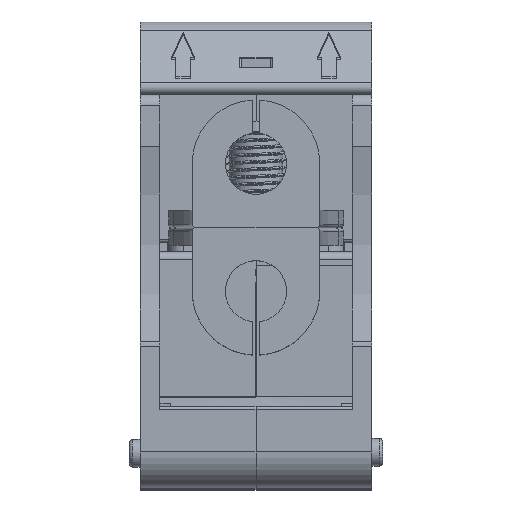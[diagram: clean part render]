
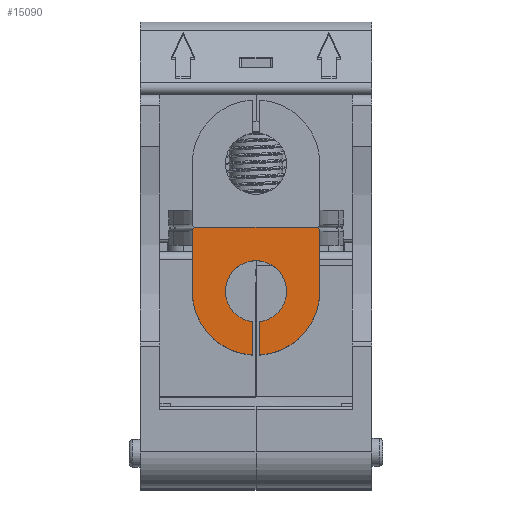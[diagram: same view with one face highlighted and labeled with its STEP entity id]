
A CAD part, top view. The second image highlights one B-rep face of the part: STEP entity #15090.
In plain terms, the highlighted planar face has unit normal (0, 0, 1) as drawn and (-1, 0, 0) by its records, which use the part's own axes.
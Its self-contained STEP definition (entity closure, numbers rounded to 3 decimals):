
#15090=ADVANCED_FACE('',(#30621),#30623,.T.);
#30621=FACE_BOUND('',#30622,.T.);
#30622=EDGE_LOOP('',(#40646,#40647,#40648,#40649,#40650,#40651,#40652,#40653,#40654,
#40655));
#30623=PLANE('',#30624);
#30624=AXIS2_PLACEMENT_3D('',#30625,#30626,#30627);
#30625=CARTESIAN_POINT('',(-39.,8.75,0.));
#30626=DIRECTION('',(-1.,0.,0.));
#30627=DIRECTION('',(0.,1.,0.));
#40646=ORIENTED_EDGE('',*,*,#45960,.T.);
#40647=ORIENTED_EDGE('',*,*,#45961,.F.);
#40648=ORIENTED_EDGE('',*,*,#45962,.T.);
#40649=ORIENTED_EDGE('',*,*,#45963,.T.);
#40650=ORIENTED_EDGE('',*,*,#45964,.T.);
#40651=ORIENTED_EDGE('',*,*,#45927,.T.);
#40652=ORIENTED_EDGE('',*,*,#45959,.T.);
#40653=ORIENTED_EDGE('',*,*,#45952,.T.);
#40654=ORIENTED_EDGE('',*,*,#45965,.T.);
#40655=ORIENTED_EDGE('',*,*,#45966,.T.);
#45927=EDGE_CURVE('',#53470,#53471,#53472,.T.);
#45952=EDGE_CURVE('',#53518,#53516,#53519,.T.);
#45959=EDGE_CURVE('',#53471,#53518,#53528,.T.);
#45960=EDGE_CURVE('',#53529,#53530,#53531,.T.);
#45961=EDGE_CURVE('',#53532,#53530,#53533,.T.);
#45962=EDGE_CURVE('',#53532,#53534,#53535,.T.);
#45963=EDGE_CURVE('',#53534,#53536,#53537,.T.);
#45964=EDGE_CURVE('',#53536,#53470,#53538,.T.);
#45965=EDGE_CURVE('',#53516,#53539,#53540,.T.);
#45966=EDGE_CURVE('',#53539,#53529,#53541,.T.);
#53470=VERTEX_POINT('',#91938);
#53471=VERTEX_POINT('',#91939);
#53472=LINE('',#91940,#91941);
#53516=VERTEX_POINT('',#92045);
#53518=VERTEX_POINT('',#92049);
#53519=LINE('',#92050,#92051);
#53528=CIRCLE('',#92076,0.5);
#53529=VERTEX_POINT('',#92080);
#53530=VERTEX_POINT('',#92081);
#53531=CIRCLE('',#92082,4.2);
#53532=VERTEX_POINT('',#92086);
#53533=LINE('',#92087,#92088);
#53534=VERTEX_POINT('',#92090);
#53535=CIRCLE('',#92091,8.75);
#53536=VERTEX_POINT('',#92095);
#53537=LINE('',#92096,#92097);
#53538=CIRCLE('',#92099,0.5);
#53539=VERTEX_POINT('',#92103);
#53540=CIRCLE('',#92104,8.75);
#53541=LINE('',#92108,#92109);
#91938=CARTESIAN_POINT('',(-39.,8.25,0.));
#91939=CARTESIAN_POINT('',(-39.,-8.25,0.));
#91940=CARTESIAN_POINT('',(-39.,8.25,0.));
#91941=VECTOR('',#91942,1.);
#91942=DIRECTION('',(0.,-1.,0.));
#92045=CARTESIAN_POINT('',(-39.,-8.75,8.75));
#92049=CARTESIAN_POINT('',(-39.,-8.75,0.5));
#92050=CARTESIAN_POINT('',(-39.,-8.75,0.5));
#92051=VECTOR('',#92052,1.);
#92052=DIRECTION('',(0.,0.,1.));
#92076=AXIS2_PLACEMENT_3D('',#92077,#92078,#92079);
#92077=CARTESIAN_POINT('',(-39.,-8.25,0.5));
#92078=DIRECTION('',(-1.,0.,0.));
#92079=DIRECTION('',(0.,0.,-1.));
#92080=CARTESIAN_POINT('',(-39.,-0.5,12.92));
#92081=CARTESIAN_POINT('',(-39.,0.5,12.92));
#92082=AXIS2_PLACEMENT_3D('',#92083,#92084,#92085);
#92083=CARTESIAN_POINT('',(-39.,0.,8.75));
#92084=DIRECTION('',(1.,0.,0.));
#92085=DIRECTION('',(0.,-0.119,0.993));
#92086=CARTESIAN_POINT('',(-39.,0.5,17.486));
#92087=CARTESIAN_POINT('',(-39.,0.5,17.486));
#92088=VECTOR('',#92089,1.);
#92089=DIRECTION('',(0.,0.,-1.));
#92090=CARTESIAN_POINT('',(-39.,8.75,8.75));
#92091=AXIS2_PLACEMENT_3D('',#92092,#92093,#92094);
#92092=CARTESIAN_POINT('',(-39.,0.,8.75));
#92093=DIRECTION('',(-1.,0.,0.));
#92094=DIRECTION('',(0.,0.057,0.998));
#92095=CARTESIAN_POINT('',(-39.,8.75,0.5));
#92096=CARTESIAN_POINT('',(-39.,8.75,8.75));
#92097=VECTOR('',#92098,1.);
#92098=DIRECTION('',(0.,0.,-1.));
#92099=AXIS2_PLACEMENT_3D('',#92100,#92101,#92102);
#92100=CARTESIAN_POINT('',(-39.,8.25,0.5));
#92101=DIRECTION('',(-1.,0.,0.));
#92102=DIRECTION('',(0.,1.,0.));
#92103=CARTESIAN_POINT('',(-39.,-0.5,17.486));
#92104=AXIS2_PLACEMENT_3D('',#92105,#92106,#92107);
#92105=CARTESIAN_POINT('',(-39.,0.,8.75));
#92106=DIRECTION('',(-1.,0.,0.));
#92107=DIRECTION('',(0.,-1.,0.));
#92108=CARTESIAN_POINT('',(-39.,-0.5,17.486));
#92109=VECTOR('',#92110,1.);
#92110=DIRECTION('',(0.,0.,-1.));
